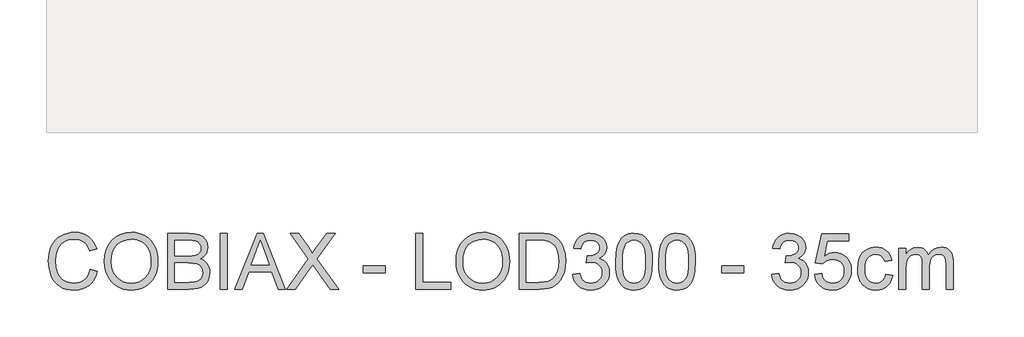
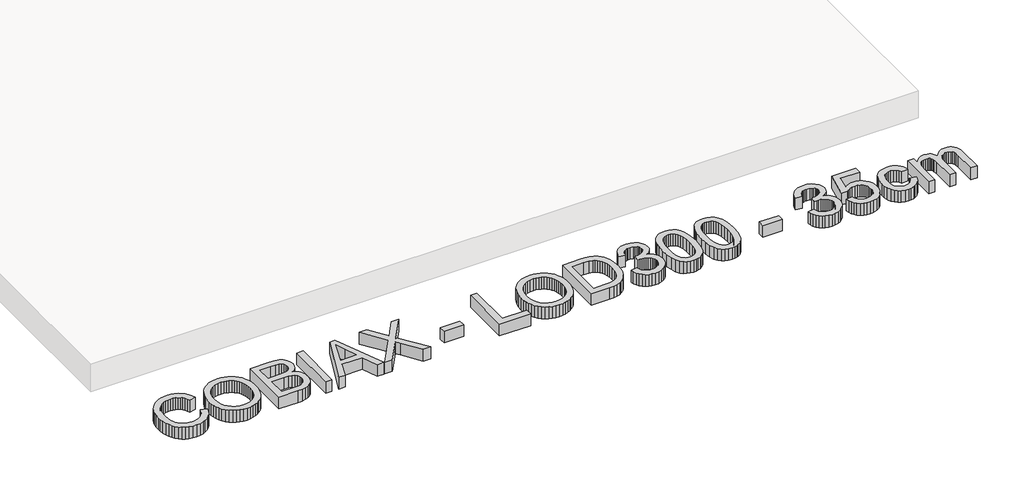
# One storey, part 5 of 18: 1 proxy.
"""IFC4 building model written with IfcOpenShell, lengths in millimetres."""

from ifc_helpers import new_model, si_unit, origin, origin_with_axes, place, context, project, spatial, polyline, outline, extrude, element, save

model = new_model("IFC4")

# Units and contexts
model_context = context("Model", 3, world=origin())
ifc_project = project(units=[si_unit("LENGTHUNIT", "METRE", prefix="MILLI")], contexts=[model_context])

# Site, building, storey
site = spatial("IfcSite", under=ifc_project)
building = spatial("IfcBuilding", under=site)
storey = spatial("IfcBuildingStorey", under=building, Name="COBIAX Slabs", Elevation=0.0)

# Proxy
placement = place(None, origin())
element("IfcBuildingElementProxy", 1, Name="600mm Arial", ObjectType="600mm Arial", at=placement, inside=storey, context=model_context, shape_type="SweptSolid", body=[
    extrude(outline(polyline([(-5201.7846047, -22740.3003464), (-5126.4423721, -22759.7245158), (-5141.35079, -22806.5788864), (-5161.2072206, -22847.5195539), (-5186.0116642, -22882.5465184), (-5215.7641205, -22911.6597798), (-5249.7932051, -22934.5466384), (-5287.4275332, -22950.8943946), (-5328.6671048, -22960.7030483), (-5373.5119201, -22963.9725995), (-5419.4557827, -22961.4985931), (-5460.902288, -22954.0765738), (-5497.8514359, -22941.7065417), (-5530.3032264, -22924.3884968), (-5558.7037164, -22902.3799564), (-5583.4989629, -22875.938438), (-5604.6889658, -22845.0639416), (-5622.2737252, -22809.7564671), (-5636.0830956, -22771.5427249), (-5645.9469316, -22731.9494251), (-5651.8652332, -22690.9765679), (-5653.8380004, -22648.6241532), (-5651.6077158, -22603.1815298), (-5644.916862, -22560.7371446), (-5633.765439, -22521.2909976), (-5618.1534469, -22484.843089), (-5598.4303734, -22451.9958253), (-5574.9457065, -22423.3516135), (-5547.6994462, -22398.9104534), (-5516.6915926, -22378.6723452), (-5482.9752077, -22362.8028356), (-5447.6033539, -22351.4674716), (-5410.5760311, -22344.6662532), (-5371.8932393, -22342.3991804), (-5328.8004621, -22345.3330393), (-5289.2853373, -22354.1346161), (-5253.3478649, -22368.8039106), (-5220.9880449, -22389.340923), (-5192.7393062, -22415.2030273), (-5169.1350776, -22445.8475975), (-5150.1753593, -22481.2746336), (-5135.8601512, -22521.4841357), (-5211.2023838, -22539.436777), (-5223.0665781, -22509.8084809), (-5237.3220054, -22484.4936011), (-5253.9686657, -22463.4921377), (-5273.006559, -22446.8040907), (-5294.5460498, -22434.0891692), (-5318.6975028, -22425.0070824), (-5345.4609179, -22419.5578304), (-5374.8362952, -22417.741413), (-5408.6354535, -22419.755567), (-5439.5467382, -22425.7980287), (-5467.5701492, -22435.8687984), (-5492.7056865, -22449.9678758), (-5514.6360519, -22467.4606647), (-5533.0439473, -22487.7125685), (-5547.9293725, -22510.7235873), (-5559.2923276, -22536.4937211), (-5573.6949077, -22591.6392322), (-5578.4957678, -22648.4770004), (-5572.8119909, -22718.0802739), (-5565.7072699, -22749.3502435), (-5555.7606605, -22778.2657683), (-5542.8112142, -22804.2520328), (-5526.6979829, -22826.7342212), (-5507.4209663, -22845.7123336), (-5484.9801646, -22861.18637), (-5460.4654281, -22873.1931186), (-5434.9666074, -22881.7693677), (-5408.4837022, -22886.9151171), (-5381.0167128, -22888.6303669), (-5348.2614196, -22886.2943162), (-5318.1272857, -22879.2861642), (-5290.614311, -22867.6059108), (-5265.7224955, -22851.2535562), (-5244.0404504, -22830.3026765), (-5226.1567869, -22804.8268484), (-5212.071505, -22774.8260717), (-5201.7846047, -22740.3003464)])), origin_with_axes(), (0.0, 0.0, 1.0), 150.0),
    extrude(outline(polyline([(-5051.1001395, -22661.1321411), (-5046.0785503, -22590.4344186), (-5031.0137825, -22527.8484942), (-5005.9058364, -22473.3743678), (-4989.5856714, -22449.1792288), (-4970.7547117, -22427.0120393), (-4927.6665331, -22389.9939136), (-4878.7474247, -22363.5523952), (-4823.9973868, -22347.6874841), (-4763.4164193, -22342.3991804), (-4722.8666263, -22344.8823839), (-4684.3585785, -22352.3319943), (-4647.8922757, -22364.7480116), (-4613.467718, -22382.1304359), (-4582.0505956, -22403.9550353), (-4554.6065988, -22429.6975779), (-4531.1357275, -22459.3580637), (-4511.6379818, -22492.9364929), (-4496.3156967, -22529.6695101), (-4485.3712073, -22568.7937603), (-4478.8045137, -22610.3092434), (-4476.6156158, -22654.2159595), (-4478.9194768, -22698.7020898), (-4485.8310598, -22740.778593), (-4497.3503648, -22780.4454691), (-4513.4773917, -22817.7027182), (-4533.8304631, -22851.5662559), (-4558.0279014, -22881.0519978), (-4586.0697064, -22906.1599439), (-4617.9558784, -22926.8900944), (-4652.4310198, -22943.1136904), (-4688.2397335, -22954.7019732), (-4725.3820195, -22961.6549429), (-4763.8578777, -22963.9725995), (-4805.1158434, -22961.4112211), (-4844.129729, -22953.7270859), (-4880.8995344, -22940.920194), (-4915.4252597, -22922.9905452), (-4946.8055939, -22900.632517), (-4974.1392261, -22874.5404865), (-4997.4261564, -22844.7144537), (-5016.6663847, -22811.1544187), (-5031.7311524, -22775.2077492), (-5042.4917008, -22738.2218131), (-5048.9480298, -22700.1966104), (-5051.1001395, -22661.1321411)]), holes=[polyline([(-4975.7579069, -22661.867905), (-4971.9917149, -22711.8170829), (-4960.6931392, -22756.1560604), (-4941.8621795, -22794.8848374), (-4915.4988361, -22828.0034141), (-4883.4517158, -22854.5277059), (-4847.5694257, -22873.4736287), (-4807.8519657, -22884.8411823), (-4764.299336, -22888.6303669), (-4720.0017453, -22884.8043941), (-4679.8152359, -22873.3264759), (-4643.7398077, -22854.1966121), (-4611.7754608, -22827.4148029), (-4585.6052554, -22793.5972505), (-4566.9122515, -22753.3601572), (-4555.6964492, -22706.7035232), (-4551.9578484, -22653.6273484), (-4553.5581351, -22619.1476084), (-4558.3589951, -22586.9303426), (-4566.3604285, -22556.9755512), (-4577.5624353, -22529.283234), (-4591.8408552, -22504.2166745), (-4609.0715282, -22482.1391563), (-4629.2544541, -22463.0506793), (-4652.3896331, -22446.9512435), (-4677.7596952, -22434.1719427), (-4704.6472705, -22425.0438706), (-4733.0523591, -22419.5670274), (-4762.9749609, -22417.741413), (-4805.0146759, -22421.2592846), (-4844.0193644, -22431.8128994), (-4879.9890265, -22449.4022573), (-4912.9236621, -22474.0273583), (-4940.4136442, -22506.874622), (-4960.0493457, -22549.1304676), (-4971.8307666, -22600.7948953), (-4975.7579069, -22661.867905)])]), origin_with_axes(), (0.0, 0.0, 1.0), 150.0),
    extrude(outline(polyline([(-4373.020046, -22954.5548204), (-4373.020046, -22351.8169595), (-4143.0202226, -22351.8169595), (-4079.7629135, -22356.2499375), (-4030.3747557, -22369.5488717), (-4010.2975958, -22379.6058457), (-3992.5196984, -22392.0448557), (-3977.0410634, -22406.8659016), (-3963.8616909, -22424.0689834), (-3945.8170791, -22461.7400997), (-3939.8022085, -22501.1770495), (-3944.8605859, -22537.4686084), (-3960.0357182, -22571.5896634), (-3985.43797, -22601.4432873), (-4021.1777058, -22624.9325527), (-3998.438, -22634.6262433), (-3978.4850002, -22647.2262016), (-3961.3187066, -22662.7324277), (-3946.9391192, -22681.1449216), (-3935.576164, -22701.9026632), (-3927.4597675, -22724.4446324), (-3922.5899296, -22748.7708294), (-3920.9666503, -22774.881254), (-3925.3996283, -22816.9117719), (-3938.6985625, -22855.8888693), (-3958.5457961, -22889.0350371), (-3982.6236727, -22913.5727661), (-4012.1094146, -22931.3414665), (-4048.1802442, -22944.1805481), (-4092.013384, -22951.9612523), (-4144.7860562, -22954.5548204), (-4373.020046, -22954.5548204)]), holes=[polyline([(-4297.6778134, -22596.6792155), (-4160.0899472, -22596.6792155), (-4111.9709822, -22595.0605347), (-4079.7445194, -22590.2044924), (-4051.6199409, -22579.0392738), (-4031.4048253, -22562.3190371), (-4019.2095371, -22540.3012997), (-4015.1444411, -22513.243579), (-4018.9336256, -22486.9768045), (-4030.3011793, -22464.0945444), (-4048.7320672, -22446.2338736), (-4073.7112547, -22435.0318668), (-4112.0445586, -22429.1273608), (-4170.5377958, -22427.1591921), (-4297.6778134, -22427.1591921), (-4297.6778134, -22596.6792155)]), polyline([(-4297.6778134, -22879.2125878), (-4143.1673754, -22879.2125878), (-4087.2493121, -22876.2695318), (-4061.2952374, -22869.7396264), (-4039.9396875, -22859.8619948), (-4022.5756574, -22845.7169321), (-4008.5961416, -22826.3847333), (-3999.3806976, -22802.729921), (-3996.3088829, -22775.617018), (-3999.9141265, -22744.1263192), (-4010.7298571, -22717.0502043), (-4029.6205976, -22695.8785955), (-4057.4508705, -22682.1014148), (-4096.8694263, -22674.5414398), (-4150.5250153, -22672.0214481), (-4297.6778134, -22672.0214481), (-4297.6778134, -22879.2125878)])]), origin_with_axes(), (0.0, 0.0, 1.0), 150.0),
    extrude(outline(polyline([(-3807.9533014, -22954.5548204), (-3807.9533014, -22351.8169595), (-3732.6110688, -22351.8169595), (-3732.6110688, -22954.5548204), (-3807.9533014, -22954.5548204)])), origin_with_axes(), (0.0, 0.0, 1.0), 150.0),
    extrude(outline(polyline([(-3652.1184882, -22954.5548204), (-3411.5236634, -22351.8169595), (-3347.3650434, -22351.8169595), (-3106.7702186, -22954.5548204), (-3186.3798823, -22954.5548204), (-3255.3945446, -22766.1992389), (-3503.641315, -22766.1992389), (-3572.5088245, -22954.5548204), (-3652.1184882, -22954.5548204)]), holes=[polyline([(-3475.9765889, -22690.8570063), (-3282.9121179, -22690.8570063), (-3337.2115004, -22542.6741386), (-3379.4443534, -22427.1591921), (-3416.9683169, -22529.7246924), (-3475.9765889, -22690.8570063)])]), origin_with_axes(), (0.0, 0.0, 1.0), 150.0),
    extrude(outline(polyline([(-3092.2020916, -22954.5548204), (-2859.8478234, -22626.1097751), (-3054.5309753, -22351.8169595), (-2964.1791572, -22351.8169595), (-2854.5503227, -22506.1802447), (-2828.3939128, -22545.2861008), (-2817.6149704, -22566.3657391), (-2774.3520477, -22505.1501751), (-2665.9004356, -22351.8169595), (-2574.2242424, -22351.8169595), (-2768.9073942, -22626.9926919), (-2536.5531261, -22954.5548204), (-2626.9049441, -22954.5548204), (-2781.7096876, -22736.1800681), (-2813.9361504, -22690.8570063), (-2849.3999748, -22740.594652), (-3000.5258984, -22954.5548204), (-3092.2020916, -22954.5548204)])), origin_with_axes(), (0.0, 0.0, 1.0), 150.0),
    extrude(outline(polyline([(-2272.8553119, -22775.617018), (-2272.8553119, -22700.2747853), (-2037.410835, -22700.2747853), (-2037.410835, -22775.617018), (-2272.8553119, -22775.617018)])), origin_with_axes(), (0.0, 0.0, 1.0), 150.0),
    extrude(outline(polyline([(-1707.7885673, -22954.5548204), (-1707.7885673, -22351.8169595), (-1632.4463347, -22351.8169595), (-1632.4463347, -22879.2125878), (-1331.0774043, -22879.2125878), (-1331.0774043, -22954.5548204), (-1707.7885673, -22954.5548204)])), origin_with_axes(), (0.0, 0.0, 1.0), 150.0),
    extrude(outline(polyline([(-1274.5707298, -22661.1321411), (-1269.5491406, -22590.4344186), (-1254.4843729, -22527.8484942), (-1229.3764267, -22473.3743678), (-1213.0562617, -22449.1792288), (-1194.2253021, -22427.0120393), (-1151.1371234, -22389.9939136), (-1102.2180151, -22363.5523952), (-1047.4679771, -22347.6874841), (-986.8870096, -22342.3991804), (-946.3372167, -22344.8823839), (-907.8291688, -22352.3319943), (-871.362866, -22364.7480116), (-836.9383083, -22382.1304359), (-805.5211859, -22403.9550353), (-778.0771891, -22429.6975779), (-754.6063178, -22459.3580637), (-735.1085721, -22492.9364929), (-719.786287, -22529.6695101), (-708.8417976, -22568.7937603), (-702.275104, -22610.3092434), (-700.0862061, -22654.2159595), (-702.3900671, -22698.7020898), (-709.3016501, -22740.778593), (-720.8209551, -22780.4454691), (-736.947982, -22817.7027182), (-757.3010534, -22851.5662559), (-781.4984917, -22881.0519978), (-809.5402967, -22906.1599439), (-841.4264687, -22926.8900944), (-875.9016102, -22943.1136904), (-911.7103239, -22954.7019732), (-948.8526098, -22961.6549429), (-987.328468, -22963.9725995), (-1028.5864337, -22961.4112211), (-1067.6003193, -22953.7270859), (-1104.3701247, -22940.920194), (-1138.89585, -22922.9905452), (-1170.2761842, -22900.632517), (-1197.6098164, -22874.5404865), (-1220.8967467, -22844.7144537), (-1240.1369751, -22811.1544187), (-1255.2017428, -22775.2077492), (-1265.9622911, -22738.2218131), (-1272.4186201, -22700.1966104), (-1274.5707298, -22661.1321411)]), holes=[polyline([(-1199.2284972, -22661.867905), (-1195.4623053, -22711.8170829), (-1184.1637295, -22756.1560604), (-1165.3327699, -22794.8848374), (-1138.9694264, -22828.0034141), (-1106.9223061, -22854.5277059), (-1071.040016, -22873.4736287), (-1031.3225561, -22884.8411823), (-987.7699264, -22888.6303669), (-943.4723356, -22884.8043941), (-903.2858262, -22873.3264759), (-867.210398, -22854.1966121), (-835.2460512, -22827.4148029), (-809.0758457, -22793.5972505), (-790.3828418, -22753.3601572), (-779.1670395, -22706.7035232), (-775.4284387, -22653.6273484), (-777.0287254, -22619.1476084), (-781.8295855, -22586.9303426), (-789.8310189, -22556.9755512), (-801.0330256, -22529.283234), (-815.3114455, -22504.2166745), (-832.5421185, -22482.1391563), (-852.7250445, -22463.0506793), (-875.8602234, -22446.9512435), (-901.2302855, -22434.1719427), (-928.1178608, -22425.0438706), (-956.5229494, -22419.5670274), (-986.4455512, -22417.741413), (-1028.4852662, -22421.2592846), (-1067.4899547, -22431.8128994), (-1103.4596168, -22449.4022573), (-1136.3942524, -22474.0273583), (-1163.8842345, -22506.874622), (-1183.519936, -22549.1304676), (-1195.3013569, -22600.7948953), (-1199.2284972, -22661.867905)])]), origin_with_axes(), (0.0, 0.0, 1.0), 150.0),
    extrude(outline(polyline([(-596.4906363, -22954.5548204), (-596.4906363, -22351.8169595), (-388.5637326, -22351.8169595), (-326.4284636, -22353.9874633), (-280.9950372, -22360.4989746), (-232.9496487, -22377.2376054), (-192.4090528, -22403.6147444), (-170.0694186, -22425.1726293), (-150.7280227, -22449.5264174), (-134.3848651, -22476.6761087), (-121.0399457, -22506.6217031), (-110.6748705, -22539.0872892), (-103.2712454, -22573.7969554), (-97.3483452, -22649.9485284), (-101.358259, -22714.6405773), (-113.3880002, -22771.570316), (-131.7085236, -22820.0387689), (-154.5907837, -22859.3469601), (-180.9311345, -22890.3778063), (-209.6259302, -22914.0142245), (-242.5697628, -22931.5438016), (-281.6572248, -22944.2541245), (-326.9618925, -22951.9796464), (-378.5573423, -22954.5548204), (-596.4906363, -22954.5548204)]), holes=[polyline([(-521.1484037, -22879.2125878), (-387.8279686, -22879.2125878), (-332.6824575, -22876.490261), (-290.8542747, -22868.3232807), (-259.2899995, -22855.1898935), (-234.9362114, -22837.5683459), (-208.7614075, -22804.9556071), (-189.0981148, -22762.7411481), (-176.7924621, -22710.7410281), (-172.6905778, -22648.771306), (-174.7001332, -22605.0301368), (-180.7287994, -22566.6600447), (-190.7765764, -22533.6610297), (-204.8434642, -22506.0330919), (-221.7890286, -22483.1508318), (-240.4728355, -22464.38885), (-260.8948847, -22449.7471466), (-283.0551764, -22439.2257216), (-326.3916754, -22430.1758245), (-389.8881078, -22427.1591921), (-521.1484037, -22427.1591921), (-521.1484037, -22879.2125878)])]), origin_with_axes(), (0.0, 0.0, 1.0), 150.0),
    extrude(outline(polyline([(-22.0061126, -22794.4525761), (53.33612, -22785.034797), (70.2035095, -22832.3812098), (81.5756616, -22850.2878659), (94.9067854, -22864.3501552), (110.5003835, -22874.9727478), (128.6599585, -22882.5603139), (149.3855104, -22887.1128536), (172.6770392, -22888.6303669), (199.9738833, -22886.5426365), (224.3276713, -22880.2794456), (245.7384035, -22869.840794), (264.2060796, -22855.2266817), (279.0777093, -22837.5315577), (289.7003019, -22817.849871), (296.0738575, -22796.1816215), (298.198376, -22772.5268092), (296.0922516, -22749.9986355), (289.7738783, -22729.5030099), (279.2432562, -22711.0399322), (264.5003852, -22694.6094026), (246.5109557, -22681.121929), (226.2406577, -22671.4880192), (203.6894914, -22665.7076734), (178.8574567, -22663.7808914), (155.0554917, -22665.8410306), (126.0296022, -22672.0214481), (134.4173117, -22596.6792155), (146.4838412, -22597.5621323), (191.622962, -22592.154267), (231.9796168, -22575.930671), (248.5894889, -22563.6618064), (260.4536833, -22548.4866741), (267.5721999, -22530.4052741), (269.9450388, -22509.4176062), (268.2251904, -22492.3800713), (263.0656454, -22476.8784438), (254.4664038, -22462.9127235), (242.4274655, -22450.4829106), (227.6753975, -22440.2787838), (210.9367667, -22432.9901217), (171.4998168, -22427.1591921), (150.8432428, -22428.6307201), (131.9892906, -22433.045304), (114.9379601, -22440.4029439), (99.6892514, -22450.7036398), (86.6202435, -22463.9473916), (76.1080155, -22480.1341994), (68.1525673, -22499.2640632), (62.7538991, -22521.3369829), (-12.5883335, -22511.9192038), (-3.6579981, -22475.9495417), (9.5949508, -22444.2657049), (27.1705131, -22416.8676933), (49.0686888, -22393.755507), (74.5996993, -22375.4073924), (103.0737657, -22362.3015964), (134.4908881, -22354.4381187), (168.8510665, -22351.8169595), (216.2158734, -22356.9857015), (259.7179193, -22372.4919276), (296.3957542, -22396.9560803), (323.2879281, -22428.9986021), (339.7874355, -22465.9155603), (345.2872714, -22505.0030223), (340.063347, -22541.4233398), (324.391574, -22574.459143), (298.4926816, -22602.6021156), (262.5873988, -22624.3439415), (287.695345, -22632.1982221), (309.7498706, -22643.4002289), (328.7509757, -22657.9499618), (344.6986602, -22675.8474209), (357.3170126, -22696.6511477), (366.3301215, -22719.9196839), (371.7379868, -22745.6530294), (373.5406086, -22773.8511844), (369.935365, -22812.0741237), (359.1196344, -22847.2804306), (341.0934166, -22879.4701052), (315.8567117, -22908.6431474), (285.110974, -22932.8497827), (250.5576576, -22950.1402365), (212.1967626, -22960.5145087), (170.0282889, -22963.9725995), (131.9157142, -22961.0203465), (97.1876538, -22952.1635874), (65.8441078, -22937.4023224), (37.8850762, -22916.7365513), (14.4417961, -22891.3802848), (-3.3544955, -22862.5475334), (-15.5037984, -22830.2382972), (-22.0061126, -22794.4525761)])), origin_with_axes(), (0.0, 0.0, 1.0), 150.0),
    extrude(outline(polyline([(439.4650621, -22658.0419323), (445.0016862, -22561.5648791), (451.9224662, -22520.6518027), (461.6115582, -22484.6223598), (474.0275756, -22453.1822448), (489.1291315, -22426.037152), (506.9162259, -22403.1870816), (527.388859, -22384.6320335), (550.6160084, -22370.2754386), (576.6666522, -22360.020728), (605.5407903, -22353.8679016), (637.2384227, -22351.8169595), (683.6651305, -22356.6730018), (725.235796, -22371.2411289), (760.0006445, -22394.9511234), (786.0099016, -22427.2327685), (805.6548001, -22467.8101526), (821.3265731, -22516.4073642), (831.5904808, -22578.1195688), (835.0117833, -22658.0419323), (829.5303416, -22753.9671625), (822.6785395, -22794.7422832), (813.0860164, -22830.7257408), (800.7665681, -22862.1796514), (785.7339901, -22889.3661309), (767.9882823, -22912.2851792), (747.5294449, -22930.9367963), (724.2747043, -22945.3899602), (698.141287, -22955.7136487), (669.1291932, -22961.9078618), (637.2384227, -22963.9725995), (595.7413337, -22960.38575), (558.9531342, -22949.6252017), (526.8738242, -22931.6909544), (499.5034037, -22906.5830082), (473.2366293, -22861.1955671), (454.4746475, -22804.6429074), (443.2174585, -22736.9250291), (439.4650621, -22658.0419323)]), holes=[polyline([(514.8072947, -22657.8947795), (517.0145867, -22723.3915702), (523.6364626, -22776.4079642), (534.6729225, -22816.9439616), (550.1239663, -22844.9995622), (568.8123716, -22864.0880393), (589.5609162, -22877.7226657), (612.3695999, -22885.9034416), (637.2384227, -22888.6303669), (662.1072456, -22885.8942445), (684.9159293, -22877.6858775), (705.6644738, -22864.0052658), (724.3528792, -22844.8524094), (739.803923, -22816.7508235), (750.8403828, -22776.2240232), (757.4622588, -22723.2720086), (759.6695507, -22657.8947795), (757.5358352, -22594.1316327), (751.1346884, -22542.0487392), (740.4661106, -22501.6460991), (725.5301016, -22472.9237123), (707.1543959, -22452.9017347), (686.1667281, -22438.6003222), (662.5670981, -22430.0194746), (636.3555059, -22427.1591921), (611.6154418, -22429.6791838), (589.1930342, -22437.2391588), (569.0882831, -22449.8391171), (551.3011887, -22467.4790588), (535.3351101, -22498.7490284), (523.9307682, -22540.908305), (517.0881631, -22593.9568887), (514.8072947, -22657.8947795)])]), origin_with_axes(), (0.0, 0.0, 1.0), 150.0),
    extrude(outline(polyline([(900.9362369, -22658.0419323), (906.4728609, -22561.5648791), (913.3936409, -22520.6518027), (923.082733, -22484.6223598), (935.4987503, -22453.1822448), (950.6003062, -22426.037152), (968.3874007, -22403.1870816), (988.8600337, -22384.6320335), (1012.0871832, -22370.2754386), (1038.137827, -22360.020728), (1067.0119651, -22353.8679016), (1098.7095975, -22351.8169595), (1145.1363053, -22356.6730018), (1186.7069707, -22371.2411289), (1221.4718193, -22394.9511234), (1247.4810763, -22427.2327685), (1267.1259749, -22467.8101526), (1282.7977479, -22516.4073642), (1293.0616555, -22578.1195688), (1296.4829581, -22658.0419323), (1291.0015164, -22753.9671625), (1284.1497142, -22794.7422832), (1274.5571912, -22830.7257408), (1262.2377429, -22862.1796514), (1247.2051648, -22889.3661309), (1229.4594571, -22912.2851792), (1209.0006196, -22930.9367963), (1185.745879, -22945.3899602), (1159.6124618, -22955.7136487), (1130.6003679, -22961.9078618), (1098.7095975, -22963.9725995), (1057.2125084, -22960.38575), (1020.4243089, -22949.6252017), (988.3449989, -22931.6909544), (960.9745785, -22906.5830082), (934.707804, -22861.1955671), (915.9458223, -22804.6429074), (904.6886332, -22736.9250291), (900.9362369, -22658.0419323)]), holes=[polyline([(976.2784695, -22657.8947795), (978.4857615, -22723.3915702), (985.1076374, -22776.4079642), (996.1440972, -22816.9439616), (1011.595141, -22844.9995622), (1030.2835464, -22864.0880393), (1051.0320909, -22877.7226657), (1073.8407746, -22885.9034416), (1098.7095975, -22888.6303669), (1123.5784204, -22885.8942445), (1146.3871041, -22877.6858775), (1167.1356486, -22864.0052658), (1185.8240539, -22844.8524094), (1201.2750977, -22816.7508235), (1212.3115576, -22776.2240232), (1218.9334335, -22723.2720086), (1221.1407255, -22657.8947795), (1219.0070099, -22594.1316327), (1212.6058632, -22542.0487392), (1201.9372853, -22501.6460991), (1187.0012763, -22472.9237123), (1168.6255707, -22452.9017347), (1147.6379028, -22438.6003222), (1124.0382729, -22430.0194746), (1097.8266807, -22427.1591921), (1073.0866165, -22429.6791838), (1050.6642089, -22437.2391588), (1030.5594579, -22449.8391171), (1012.7723634, -22467.4790588), (996.8062848, -22498.7490284), (985.401943, -22540.908305), (978.5593379, -22593.9568887), (976.2784695, -22657.8947795)])]), origin_with_axes(), (0.0, 0.0, 1.0), 150.0),
    extrude(outline(polyline([(1579.0163304, -22775.617018), (1579.0163304, -22700.2747853), (1814.4608073, -22700.2747853), (1814.4608073, -22775.617018), (1579.0163304, -22775.617018)])), origin_with_axes(), (0.0, 0.0, 1.0), 150.0),
    extrude(outline(polyline([(2115.8297378, -22794.4525761), (2191.1719704, -22785.034797), (2208.0393598, -22832.3812098), (2219.411512, -22850.2878659), (2232.7426358, -22864.3501552), (2248.3362339, -22874.9727478), (2266.4958089, -22882.5603139), (2287.2213608, -22887.1128536), (2310.5128896, -22888.6303669), (2337.8097336, -22886.5426365), (2362.1635217, -22880.2794456), (2383.5742538, -22869.840794), (2402.04193, -22855.2266817), (2416.9135597, -22837.5315577), (2427.5361523, -22817.849871), (2433.9097078, -22796.1816215), (2436.0342264, -22772.5268092), (2433.9281019, -22749.9986355), (2427.6097287, -22729.5030099), (2417.0791066, -22711.0399322), (2402.3362356, -22694.6094026), (2384.346806, -22681.121929), (2364.0765081, -22671.4880192), (2341.5253418, -22665.7076734), (2316.6933071, -22663.7808914), (2292.891342, -22665.8410306), (2263.8654526, -22672.0214481), (2272.2531621, -22596.6792155), (2284.3196915, -22597.5621323), (2329.4588123, -22592.154267), (2369.8154672, -22575.930671), (2386.4253393, -22563.6618064), (2398.2895336, -22548.4866741), (2405.4080503, -22530.4052741), (2407.7808891, -22509.4176062), (2406.0610408, -22492.3800713), (2400.9014958, -22476.8784438), (2392.3022542, -22462.9127235), (2380.2633159, -22450.4829106), (2365.5112479, -22440.2787838), (2348.7726171, -22432.9901217), (2309.3356672, -22427.1591921), (2288.6790932, -22428.6307201), (2269.8251409, -22433.045304), (2252.7738105, -22440.4029439), (2237.5251018, -22450.7036398), (2224.4560939, -22463.9473916), (2213.9438659, -22480.1341994), (2205.9884177, -22499.2640632), (2200.5897494, -22521.3369829), (2125.2475168, -22511.9192038), (2134.1778523, -22475.9495417), (2147.4308011, -22444.2657049), (2165.0063635, -22416.8676933), (2186.9045392, -22393.755507), (2212.4355497, -22375.4073924), (2240.9096161, -22362.3015964), (2272.3267385, -22354.4381187), (2306.6869168, -22351.8169595), (2354.0517237, -22356.9857015), (2397.5537697, -22372.4919276), (2434.2316046, -22396.9560803), (2461.1237784, -22428.9986021), (2477.6232859, -22465.9155603), (2483.1231217, -22505.0030223), (2477.8991974, -22541.4233398), (2462.2274244, -22574.459143), (2436.3285319, -22602.6021156), (2400.4232492, -22624.3439415), (2425.5311954, -22632.1982221), (2447.585721, -22643.4002289), (2466.5868261, -22657.9499618), (2482.5345105, -22675.8474209), (2495.152863, -22696.6511477), (2504.1659719, -22719.9196839), (2509.5738372, -22745.6530294), (2511.376459, -22773.8511844), (2507.7712154, -22812.0741237), (2496.9554848, -22847.2804306), (2478.929267, -22879.4701052), (2453.6925621, -22908.6431474), (2422.9468244, -22932.8497827), (2388.393508, -22950.1402365), (2350.0326129, -22960.5145087), (2307.8641392, -22963.9725995), (2269.7515645, -22961.0203465), (2235.0235042, -22952.1635874), (2203.6799582, -22937.4023224), (2175.7209266, -22916.7365513), (2152.2776464, -22891.3802848), (2134.4813549, -22862.5475334), (2122.332052, -22830.2382972), (2115.8297378, -22794.4525761)])), origin_with_axes(), (0.0, 0.0, 1.0), 150.0),
    extrude(outline(polyline([(2577.3009125, -22794.4525761), (2652.6431451, -22785.034797), (2658.2717396, -22809.2552279), (2666.4755081, -22830.2658883), (2677.2544506, -22848.0667784), (2690.608567, -22862.657898), (2706.5102663, -22874.0208531), (2724.9319572, -22882.1372497), (2745.8736397, -22887.0070876), (2769.335314, -22888.6303669), (2798.0301096, -22886.3724911), (2823.3403909, -22879.5988639), (2845.2661578, -22868.3094852), (2863.8074103, -22852.5043549), (2878.5502813, -22832.9652225), (2889.0809034, -22810.473837), (2895.3992767, -22785.0301985), (2897.5054011, -22756.634307), (2895.5326339, -22729.7973155), (2889.6143323, -22705.9401681), (2879.7504963, -22685.0628648), (2865.9411259, -22667.1654058), (2848.1402359, -22652.8088109), (2826.3018409, -22642.5541003), (2800.4259411, -22636.4012739), (2770.5125364, -22634.3503318), (2733.9634601, -22637.6244816), (2704.3673536, -22647.4469308), (2680.7309354, -22662.4933044), (2662.0609242, -22681.4392272), (2586.7186916, -22672.0214481), (2652.6431451, -22361.2347386), (2944.5942965, -22361.2347386), (2944.5942965, -22436.5769712), (2713.5644035, -22436.5769712), (2681.3379407, -22602.5653274), (2707.9266119, -22583.5090401), (2735.1590766, -22569.8974062), (2763.0353348, -22561.730426), (2791.5553865, -22559.0080992), (2828.247017, -22562.3834165), (2861.9496063, -22572.5093684), (2892.6631543, -22589.3859549), (2920.3876612, -22613.0131761), (2943.3388992, -22641.947095), (2959.7326406, -22674.7437749), (2969.5688854, -22711.4032157), (2972.8476337, -22751.9254175), (2969.8953807, -22790.9576972), (2961.0386217, -22827.2676501), (2946.2773566, -22860.8552762), (2925.6115855, -22891.7205756), (2894.3048277, -22923.3308361), (2857.7741456, -22945.9095935), (2816.0195392, -22959.456848), (2769.0410084, -22963.9725995), (2730.16048, -22961.0709302), (2695.0415451, -22952.3659225), (2663.6842035, -22937.8575763), (2636.0884553, -22917.5458917), (2613.1280203, -22892.442544), (2595.6766182, -22863.5592089), (2583.7342489, -22830.8958863), (2577.3009125, -22794.4525761)])), origin_with_axes(), (0.0, 0.0, 1.0), 150.0),
    extrude(outline(polyline([(3340.1410177, -22794.4525761), (3415.4832503, -22803.8703552), (3407.2886789, -22839.4215515), (3394.4771884, -22870.8800606), (3377.0487789, -22898.2458825), (3355.0034503, -22921.5190172), (3329.2701047, -22940.0924595), (3300.7776442, -22953.3592039), (3269.5260687, -22961.3192506), (3235.5153783, -22963.9725995), (3193.2595326, -22960.2707869), (3155.3722856, -22949.1653492), (3121.8536373, -22930.6562863), (3092.7035877, -22904.7435983), (3069.1085563, -22871.9147287), (3052.2549624, -22832.6571213), (3042.142806, -22786.970776), (3038.7720873, -22734.8556929), (3044.5294405, -22667.8091993), (3051.726132, -22637.6382771), (3061.8015001, -22609.7022381), (3074.8245228, -22584.5621023), (3090.8641778, -22562.7788896), (3109.9204651, -22544.3526002), (3131.9933848, -22529.283234), (3156.085057, -22517.5661924), (3181.1976017, -22509.196877), (3207.3310189, -22504.1752878), (3234.4853087, -22502.5014247), (3267.9119865, -22504.8006872), (3298.1472879, -22511.6984746), (3325.1912131, -22523.194787), (3349.043762, -22539.2896243), (3369.3002643, -22559.6151045), (3385.55605, -22583.8033457), (3397.811119, -22611.8543478), (3406.0654712, -22643.7681109), (3330.7232386, -22653.18589), (3317.0564225, -22620.3156337), (3295.7744491, -22596.7527919), (3268.0545407, -22582.570941), (3235.0739199, -22577.8436573), (3209.4739315, -22580.170511), (3186.3847378, -22587.1510718), (3165.8063387, -22598.7853399), (3147.7387342, -22615.0733153), (3133.0280529, -22636.3920769), (3122.5204235, -22663.1187038), (3116.2158458, -22695.2531961), (3114.1143199, -22732.7955537), (3116.1698605, -22770.9035299), (3122.3364825, -22803.4105027), (3132.6141857, -22830.3164721), (3147.0029702, -22851.6214382), (3164.7118898, -22867.8128445), (3184.949998, -22879.3781347), (3207.717295, -22886.3173088), (3233.0137807, -22888.6303669), (3272.0276663, -22882.8546195), (3288.8996543, -22875.6349354), (3304.0150058, -22865.5273776), (3316.9506564, -22852.4215815), (3327.283542, -22836.2071826), (3335.0136624, -22816.8841808), (3340.1410177, -22794.4525761)])), origin_with_axes(), (0.0, 0.0, 1.0), 150.0),
    extrude(outline(polyline([(3481.4077038, -22954.5548204), (3481.4077038, -22511.9192038), (3556.7499365, -22511.9192038), (3556.7499365, -22584.7598389), (3579.4114674, -22551.3009714), (3608.5477214, -22525.0893792), (3643.1654171, -22508.1484134), (3682.2712732, -22502.5014247), (3724.1730325, -22508.258778), (3742.0061122, -22515.4554695), (3757.7606586, -22525.5308376), (3782.8502107, -22553.1771696), (3799.2577477, -22590.0573396), (3826.7201386, -22551.7516268), (3858.0452905, -22524.3904034), (3893.2332033, -22507.9736694), (3932.2838771, -22502.5014247), (3962.4456022, -22504.7776946), (3988.9193103, -22511.6065041), (4011.7050014, -22522.9878533), (4030.8026754, -22538.9217423), (4045.8996328, -22559.5921119), (4056.6831738, -22585.1829031), (4063.1532984, -22615.6941161), (4065.3100066, -22651.1257508), (4065.3100066, -22954.5548204), (3989.967774, -22954.5548204), (3989.967774, -22683.4993664), (3988.2203345, -22645.9202206), (3982.9780161, -22620.5915452), (3973.1555668, -22603.2459091), (3957.6677348, -22589.6158812), (3937.7469248, -22580.7867133), (3914.6255414, -22577.8436573), (3893.2745901, -22579.7290526), (3873.809034, -22585.3852382), (3856.2288732, -22594.8122144), (3840.5341075, -22608.0099809), (3827.626048, -22625.3648141), (3818.4060055, -22647.2629898), (3812.87398, -22673.7045082), (3811.0299715, -22704.6893693), (3811.0299715, -22954.5548204), (3735.6877389, -22954.5548204), (3735.6877389, -22675.1116569), (3731.3283373, -22632.5109218), (3725.8790852, -22615.7906851), (3718.2501323, -22602.123869), (3708.137976, -22591.5012764), (3695.2391135, -22583.9137103), (3679.553545, -22579.3611706), (3661.0812703, -22577.8436573), (3632.0553809, -22581.8903593), (3605.3103598, -22594.0304651), (3583.2374401, -22613.9696693), (3568.2278547, -22641.4136661), (3559.619416, -22679.4894526), (3556.7499365, -22731.3240257), (3556.7499365, -22954.5548204), (3481.4077038, -22954.5548204)])), origin_with_axes(), (0.0, 0.0, 1.0), 150.0),
])

save(model, "model.ifc")
